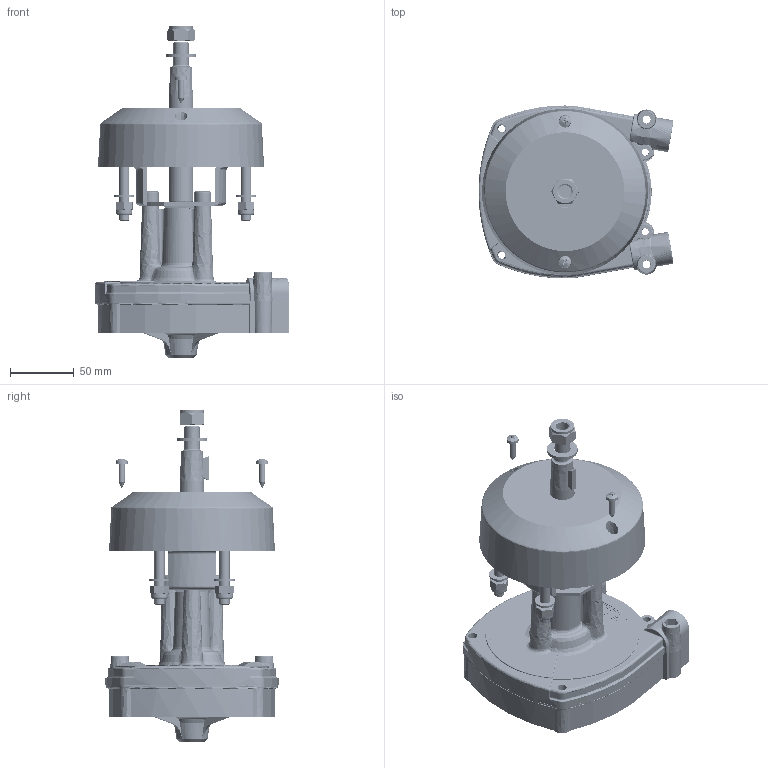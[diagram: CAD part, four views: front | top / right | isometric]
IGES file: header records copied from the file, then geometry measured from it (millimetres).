
Global section: file name: T71 Helm - X34 Bezel Assembly ; native system: Autodesk Inventor 2016; preprocessor: unknown; author: Trivella; date: 20150929.181540; units: millimetre
Bounding box: 152.55 x 135.4 x 259.79 mm (x, y, z)
Volume: 546430.9 mm3; surface area: 368702.4 mm2
Topology: 37 solids, 37 shells, 5900 faces, 15857 edges, 10200 vertices
Faces by surface type: bspline 5900
